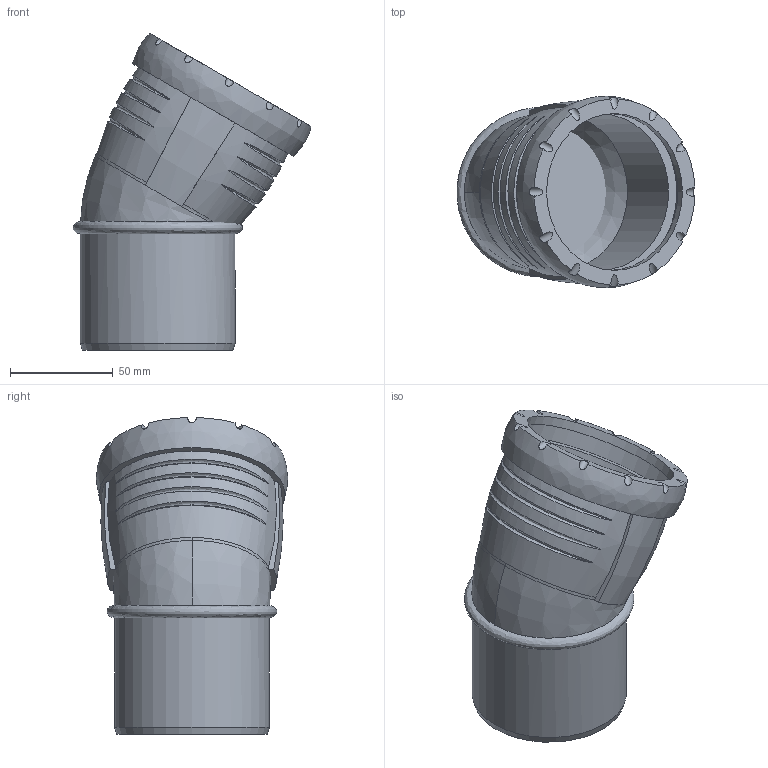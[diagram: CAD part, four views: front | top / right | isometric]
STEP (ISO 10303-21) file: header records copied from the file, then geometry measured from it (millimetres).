
FILE_DESCRIPTION(/* description */ (''),/* implementation_level */ '2;1');
FILE_NAME(/* name */ 'H:\Geberit-Teile\Export\Bogen_TEST\stp\393321.stp',/* time_stamp */ '2017-02-14T10:06:40+01:00',/* author */ ('seihe2'),/* organization */ (''),/* preprocessor_version */ 'ST-DEVELOPER v15.2',/* originating_system */ 'Autodesk Inventor 2014',/* authorisation */ '');
FILE_SCHEMA (('AUTOMOTIVE_DESIGN { 1 0 10303 214 3 1 1 }'));
Length unit declared in the file: millimetre
Products named in the file (1): 393321
Bounding box: 115.61 x 92.99 x 153.97 mm (x, y, z)
Volume: 225365.5 mm3; surface area: 82179.9 mm2
Topology: 2 solids, 2 shells, 56 faces, 139 edges, 98 vertices
Faces by surface type: bspline 27, cylinder 19, plane 8, cone 2
Full cylindrical faces by diameter (mm): 67.6 x1, 75.2 x1, 75.9 x1, 76.2 x1, 85 x1
Entity records: 4285 total; most frequent: CARTESIAN_POINT 3051, ORIENTED_EDGE 264, DIRECTION 180, EDGE_CURVE 131, VERTEX_POINT 97, AXIS2_PLACEMENT_3D 90, EDGE_LOOP 77, B_SPLINE_CURVE_WITH_KNOTS 70
